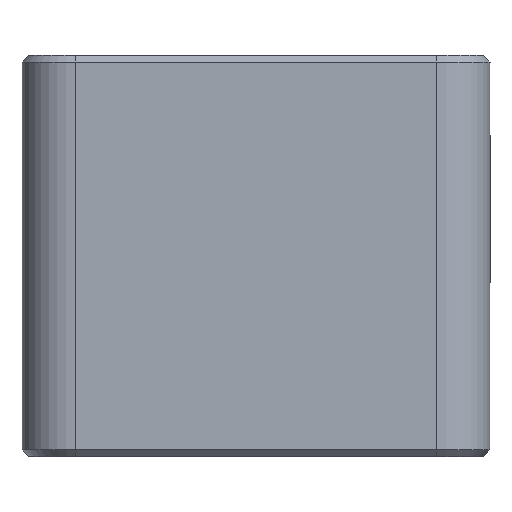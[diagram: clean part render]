
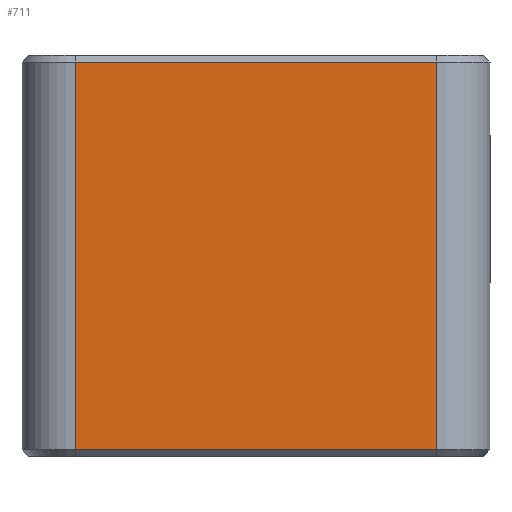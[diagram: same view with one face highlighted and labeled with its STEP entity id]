
A CAD part, left-side view. The second image highlights one B-rep face of the part: STEP entity #711.
In plain terms, the highlighted planar face has unit normal (-1, 0, 0).
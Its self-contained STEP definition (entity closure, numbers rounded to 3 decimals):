
#95 = CARTESIAN_POINT ( 'NONE',  ( -25., -13.5, 0.5 ) ) ;
#96 = VERTEX_POINT ( 'NONE', #742 ) ;
#118 = VECTOR ( 'NONE', #1084, 1000. ) ;
#149 = ORIENTED_EDGE ( 'NONE', *, *, #463, .T. ) ;
#191 = DIRECTION ( 'NONE',  ( 0., 1., 0. ) ) ;
#346 = LINE ( 'NONE', #764, #118 ) ;
#371 = AXIS2_PLACEMENT_3D ( 'NONE', #1243, #1483, #191 ) ;
#416 = EDGE_CURVE ( 'NONE', #687, #96, #593, .T. ) ;
#463 = EDGE_CURVE ( 'NONE', #688, #1409, #483, .T. ) ;
#483 = LINE ( 'NONE', #1297, #578 ) ;
#569 = CARTESIAN_POINT ( 'NONE',  ( -25., 13.5, 0.5 ) ) ;
#578 = VECTOR ( 'NONE', #803, 1000. ) ;
#581 = DIRECTION ( 'NONE',  ( 0., -1., 0. ) ) ;
#593 = LINE ( 'NONE', #1266, #967 ) ;
#687 = VERTEX_POINT ( 'NONE', #1247 ) ;
#688 = VERTEX_POINT ( 'NONE', #569 ) ;
#711 = ADVANCED_FACE ( 'NONE', ( #1035 ), #1357, .F. ) ;
#725 = ORIENTED_EDGE ( 'NONE', *, *, #1475, .F. ) ;
#742 = CARTESIAN_POINT ( 'NONE',  ( -25., -13.5, 29.5 ) ) ;
#764 = CARTESIAN_POINT ( 'NONE',  ( -25., 13.5, 30. ) ) ;
#803 = DIRECTION ( 'NONE',  ( 0., -1., 0. ) ) ;
#804 = EDGE_LOOP ( 'NONE', ( #149, #881, #1506, #725 ) ) ;
#881 = ORIENTED_EDGE ( 'NONE', *, *, #960, .F. ) ;
#890 = CARTESIAN_POINT ( 'NONE',  ( -25., -13.5, 30. ) ) ;
#960 = EDGE_CURVE ( 'NONE', #96, #1409, #1446, .T. ) ;
#967 = VECTOR ( 'NONE', #581, 1000. ) ;
#1035 = FACE_OUTER_BOUND ( 'NONE', #804, .T. ) ;
#1084 = DIRECTION ( 'NONE',  ( 0., 0., 1. ) ) ;
#1243 = CARTESIAN_POINT ( 'NONE',  ( -25., 13.5, 30. ) ) ;
#1247 = CARTESIAN_POINT ( 'NONE',  ( -25., 13.5, 29.5 ) ) ;
#1266 = CARTESIAN_POINT ( 'NONE',  ( -25., 13.5, 29.5 ) ) ;
#1297 = CARTESIAN_POINT ( 'NONE',  ( -25., 13.5, 0.5 ) ) ;
#1357 = PLANE ( 'NONE',  #371 ) ;
#1404 = VECTOR ( 'NONE', #1482, 1000. ) ;
#1409 = VERTEX_POINT ( 'NONE', #95 ) ;
#1446 = LINE ( 'NONE', #890, #1404 ) ;
#1475 = EDGE_CURVE ( 'NONE', #688, #687, #346, .T. ) ;
#1482 = DIRECTION ( 'NONE',  ( 0., 0., -1. ) ) ;
#1483 = DIRECTION ( 'NONE',  ( 1., 0., 0. ) ) ;
#1506 = ORIENTED_EDGE ( 'NONE', *, *, #416, .F. ) ;
